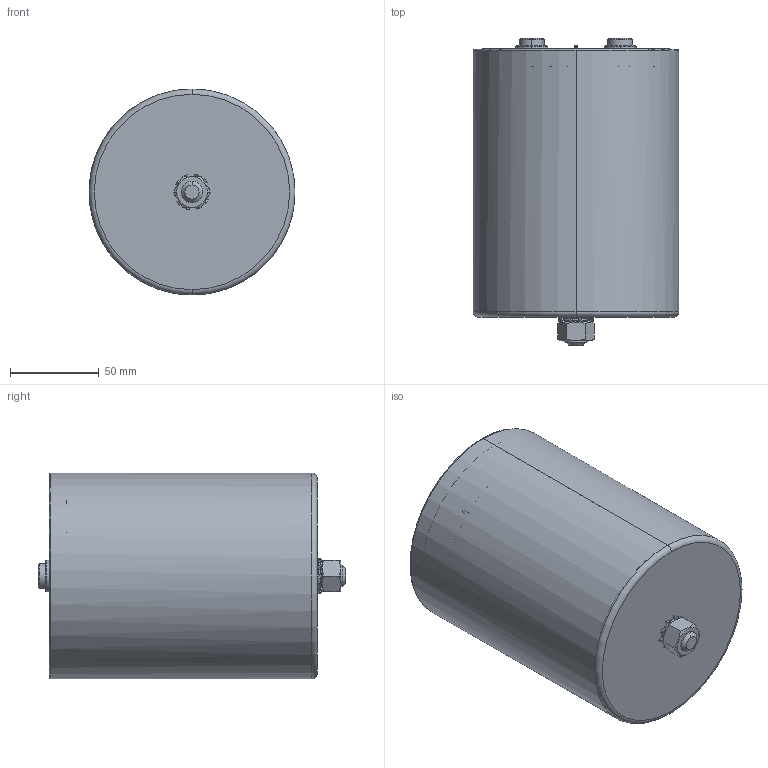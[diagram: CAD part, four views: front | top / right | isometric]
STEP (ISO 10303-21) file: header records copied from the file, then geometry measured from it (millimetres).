
FILE_DESCRIPTION (( 'STEP AP214' ), '1' );
FILE_NAME ('B25695 Series D116 Hc151 Ht157.STEP', '2024-06-04T08:41:00', ( '' ), ( '' ), 'SwSTEP 2.0', 'SolidWorks 2019', '' );
FILE_SCHEMA (( 'AUTOMOTIVE_DESIGN' ));
Length unit declared in the file: millimetre
Products named in the file (1): B25695 Series D116 Hc151 Ht157
Bounding box: 116 x 173 x 116 mm (x, y, z)
Volume: 151258 mm3; surface area: 170450.4 mm2
Topology: 1 solids, 2 shells, 371 faces, 1009 edges, 645 vertices
Faces by surface type: plane 137, cylinder 124, cone 50, bspline 40, torus 16, sphere 4
Entity records: 12572 total; most frequent: CARTESIAN_POINT 3598, ORIENTED_EDGE 2002, DIRECTION 1734, EDGE_CURVE 1001, AXIS2_PLACEMENT_3D 647, VERTEX_POINT 645, LINE 440, VECTOR 440
